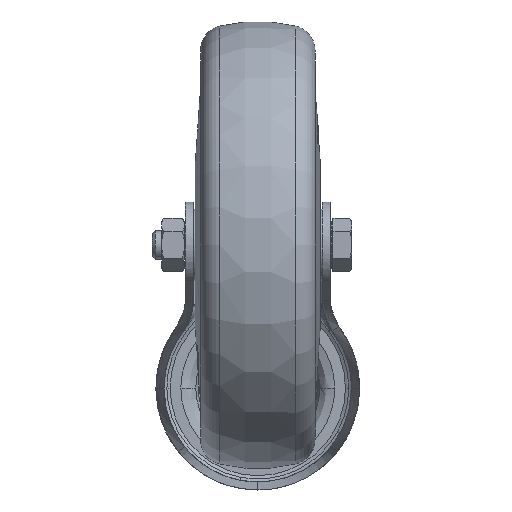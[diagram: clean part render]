
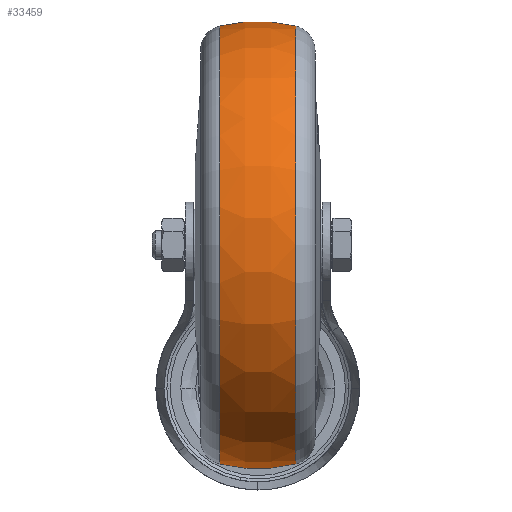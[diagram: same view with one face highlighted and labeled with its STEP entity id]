
A CAD part, front view. The second image highlights one B-rep face of the part: STEP entity #33459.
In plain terms, the highlighted toroidal (fillet/blend) face has major radius 17.5 mm and minor radius 45 mm.
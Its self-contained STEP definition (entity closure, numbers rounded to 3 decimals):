
#4661 = EDGE_CURVE ( 'NONE', #54107, #54034, #57747, .T. ) ;
#4663 = EDGE_CURVE ( 'NONE', #54121, #54039, #57744, .T. ) ;
#9271 = DIRECTION ( 'NONE',  ( -1., 0., 0. ) ) ;
#9274 = CARTESIAN_POINT ( 'NONE',  ( 10.658, 0., 0. ) ) ;
#9286 = DIRECTION ( 'NONE',  ( 0., 0., 1. ) ) ;
#9393 = CARTESIAN_POINT ( 'NONE',  ( -10.658, 0., 0. ) ) ;
#9408 = DIRECTION ( 'NONE',  ( -1., 0., 0. ) ) ;
#9410 = DIRECTION ( 'NONE',  ( 0., 0., 1. ) ) ;
#14237 = CIRCLE ( 'NONE', #16152, 61.22 ) ;
#14281 = CIRCLE ( 'NONE', #16161, 61.22 ) ;
#15891 = CARTESIAN_POINT ( 'NONE',  ( -10.658, 0., 61.22 ) ) ;
#15894 = CARTESIAN_POINT ( 'NONE',  ( -10.658, 0., -61.22 ) ) ;
#15937 = CARTESIAN_POINT ( 'NONE',  ( 10.658, 0., 61.22 ) ) ;
#15944 = CARTESIAN_POINT ( 'NONE',  ( 10.658, 0., -61.22 ) ) ;
#16152 = AXIS2_PLACEMENT_3D ( 'NONE', #9274, #9271, #9286 ) ;
#16161 = AXIS2_PLACEMENT_3D ( 'NONE', #9393, #9408, #9410 ) ;
#20024 = DIRECTION ( 'NONE',  ( -1., 0., 0. ) ) ;
#20027 = CARTESIAN_POINT ( 'NONE',  ( 0., 0., 0. ) ) ;
#20046 = DIRECTION ( 'NONE',  ( 0., 0., 1. ) ) ;
#21740 = FACE_OUTER_BOUND ( 'NONE', #63306, .T. ) ;
#21794 = TOROIDAL_SURFACE ( 'NONE', #28095, 17.5, 45. ) ;
#23948 = AXIS2_PLACEMENT_3D ( 'NONE', #49600, #49613, #49614 ) ;
#23949 = AXIS2_PLACEMENT_3D ( 'NONE', #49618, #49619, #49620 ) ;
#28095 = AXIS2_PLACEMENT_3D ( 'NONE', #20027, #20024, #20046 ) ;
#33459 = ADVANCED_FACE ( 'NONE', ( #21740 ), #21794, .T. ) ;
#49600 = CARTESIAN_POINT ( 'NONE',  ( 0., 0., 17.5 ) ) ;
#49613 = DIRECTION ( 'NONE',  ( 0., -1., 0. ) ) ;
#49614 = DIRECTION ( 'NONE',  ( 0., 0., -1. ) ) ;
#49618 = CARTESIAN_POINT ( 'NONE',  ( 0., 0., -17.5 ) ) ;
#49619 = DIRECTION ( 'NONE',  ( 0., 1., 0. ) ) ;
#49620 = DIRECTION ( 'NONE',  ( 0., 0., 1. ) ) ;
#54034 = VERTEX_POINT ( 'NONE', #15891 ) ;
#54039 = VERTEX_POINT ( 'NONE', #15894 ) ;
#54107 = VERTEX_POINT ( 'NONE', #15937 ) ;
#54121 = VERTEX_POINT ( 'NONE', #15944 ) ;
#57744 = CIRCLE ( 'NONE', #23949, 45. ) ;
#57747 = CIRCLE ( 'NONE', #23948, 45. ) ;
#62597 = ORIENTED_EDGE ( 'NONE', *, *, #63151, .T. ) ;
#63151 = EDGE_CURVE ( 'NONE', #54121, #54107, #14237, .T. ) ;
#63191 = EDGE_CURVE ( 'NONE', #54039, #54034, #14281, .T. ) ;
#63306 = EDGE_LOOP ( 'NONE', ( #63919, #62597, #64814, #63917 ) ) ;
#63917 = ORIENTED_EDGE ( 'NONE', *, *, #63191, .F. ) ;
#63919 = ORIENTED_EDGE ( 'NONE', *, *, #4663, .F. ) ;
#64814 = ORIENTED_EDGE ( 'NONE', *, *, #4661, .T. ) ;
